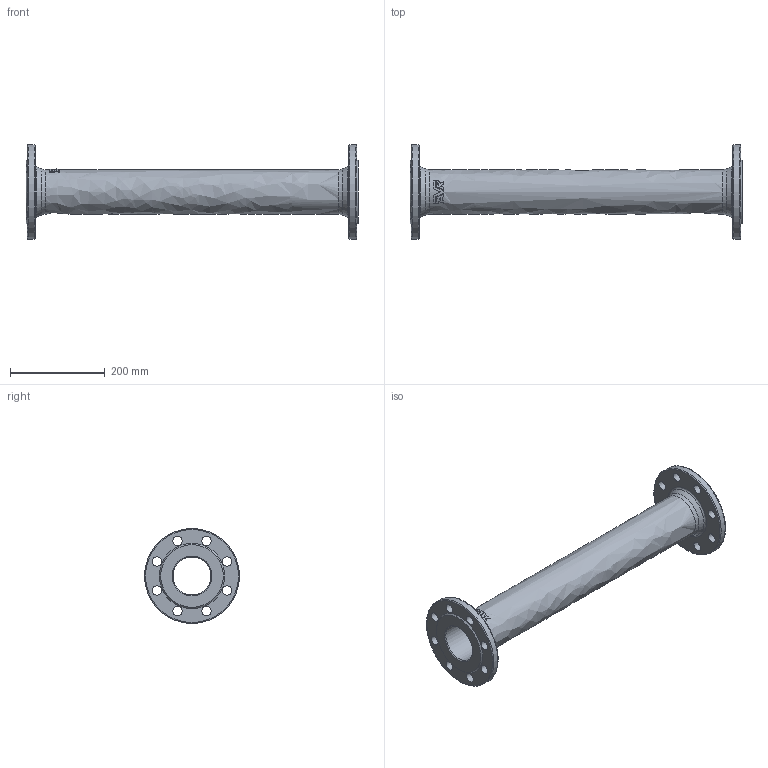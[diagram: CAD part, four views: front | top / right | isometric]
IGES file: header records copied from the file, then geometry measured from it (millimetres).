
Start section: SolidWorks IGES file using analytic representation for surfaces
Global section: file name: \\avksan2\techshare\PBM outline export from Enovia\O_712_5010_DN80_1X_REV01.igs; native system: SolidWorks 2019; preprocessor: SolidWorks 2019; author: pbm; date: 211203.103024; units: millimetre
Bounding box: 700 x 200 x 200 mm (x, y, z)
Surface area: 494465 mm2 (no closed solid volume)
Topology: 0 solids, 0 shells, 81 faces, 467 edges, 432 vertices
Faces by surface type: bspline 43, revolution 38
